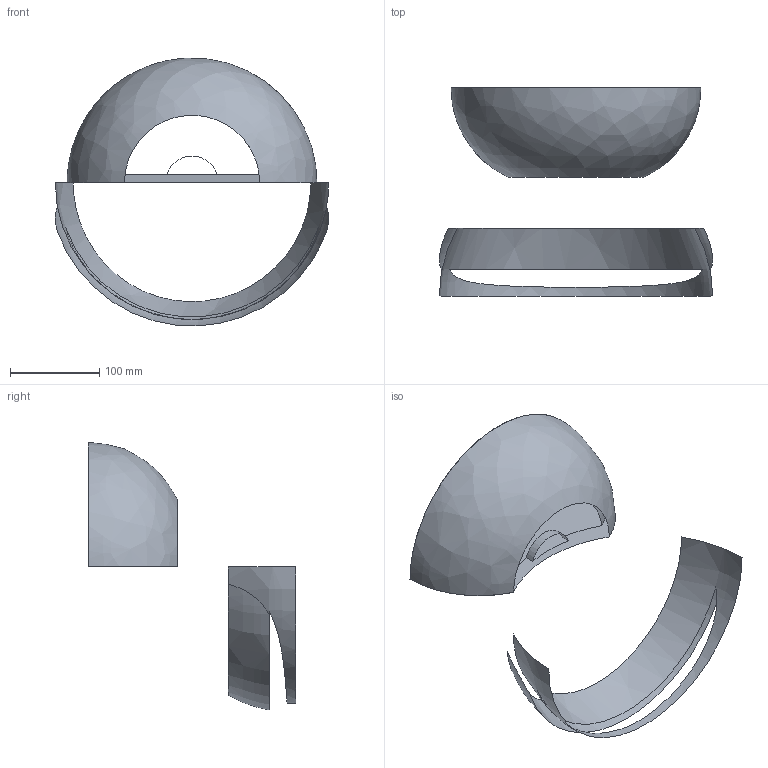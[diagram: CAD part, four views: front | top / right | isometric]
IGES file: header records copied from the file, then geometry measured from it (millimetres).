
Start section: SolidWorks IGES file using analytic representation for surfaces
Global section: file name: C:\Users\Stagiaire\Desktop\Rendu 3D\1740\1740_COMPACT_DOUBLE_ÉCLAIRAGE.IGS; native system: SolidWorks 2014; preprocessor: SolidWorks 2014; author: Stagiaire; date: 140925.100017; units: millimetre
Bounding box: 306.51 x 233.18 x 300.31 mm (x, y, z)
Surface area: 182343.4 mm2 (no closed solid volume)
Topology: 0 solids, 0 shells, 8 faces, 229 edges, 229 vertices
Faces by surface type: bspline 5, revolution 3
